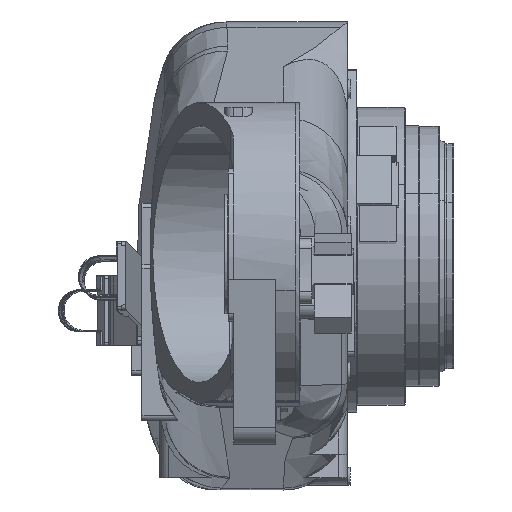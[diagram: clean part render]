
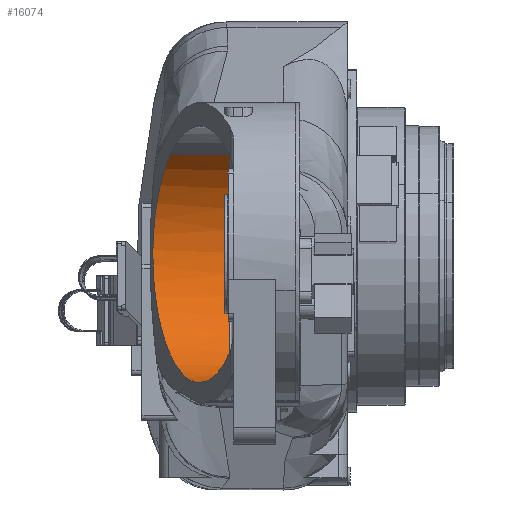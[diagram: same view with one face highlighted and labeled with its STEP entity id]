
A CAD part, top view. The second image highlights one B-rep face of the part: STEP entity #16074.
In plain terms, the highlighted cylindrical face has radius 140 mm (diameter 280 mm), a partial arc.
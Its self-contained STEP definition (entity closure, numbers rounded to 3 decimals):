
#12267=CARTESIAN_POINT('Vertex',(-197.,196.328,1918.263)) ;
#12271=CARTESIAN_POINT('Control Point',(-229.125,165.,1830.)) ;
#12272=CARTESIAN_POINT('Control Point',(-224.099,165.,1843.81)) ;
#12273=CARTESIAN_POINT('Control Point',(-219.072,166.703,1857.619)) ;
#12274=CARTESIAN_POINT('Control Point',(-214.135,170.108,1871.185)) ;
#12275=CARTESIAN_POINT('Control Point',(-207.612,177.068,1889.107)) ;
#12276=CARTESIAN_POINT('Control Point',(-201.605,187.,1905.609)) ;
#12277=CARTESIAN_POINT('Control Point',(-200.021,189.903,1909.962)) ;
#12278=CARTESIAN_POINT('Control Point',(-198.484,193.015,1914.184)) ;
#12279=CARTESIAN_POINT('Control Point',(-197.,196.328,1918.263)) ;
#12280=CARTESIAN_POINT('Vertex',(-229.125,165.,1830.)) ;
#12284=CARTESIAN_POINT('Control Point',(-261.25,413.672,1741.737)) ;
#12285=CARTESIAN_POINT('Control Point',(-262.993,409.782,1736.948)) ;
#12286=CARTESIAN_POINT('Control Point',(-264.664,405.615,1732.357)) ;
#12287=CARTESIAN_POINT('Control Point',(-266.255,401.184,1727.986)) ;
#12288=CARTESIAN_POINT('Control Point',(-270.312,388.545,1716.838)) ;
#12289=CARTESIAN_POINT('Control Point',(-273.677,374.209,1707.593)) ;
#12290=CARTESIAN_POINT('Control Point',(-275.485,364.599,1702.627)) ;
#12291=CARTESIAN_POINT('Control Point',(-278.615,343.063,1694.027)) ;
#12292=CARTESIAN_POINT('Control Point',(-280.088,320.028,1689.979)) ;
#12293=CARTESIAN_POINT('Control Point',(-280.374,307.555,1689.195)) ;
#12294=CARTESIAN_POINT('Control Point',(-279.969,284.82,1690.307)) ;
#12295=CARTESIAN_POINT('Control Point',(-277.934,262.895,1695.897)) ;
#12296=CARTESIAN_POINT('Control Point',(-276.691,253.269,1699.315)) ;
#12297=CARTESIAN_POINT('Control Point',(-273.282,232.944,1708.68)) ;
#12298=CARTESIAN_POINT('Control Point',(-268.53,215.016,1721.735)) ;
#12299=CARTESIAN_POINT('Control Point',(-265.58,206.096,1729.84)) ;
#12300=CARTESIAN_POINT('Control Point',(-258.643,189.14,1748.9)) ;
#12301=CARTESIAN_POINT('Control Point',(-250.597,176.988,1771.005)) ;
#12302=CARTESIAN_POINT('Control Point',(-246.086,171.989,1783.399)) ;
#12303=CARTESIAN_POINT('Control Point',(-239.945,167.398,1800.273)) ;
#12304=CARTESIAN_POINT('Control Point',(-233.675,165.466,1817.499)) ;
#12305=CARTESIAN_POINT('Control Point',(-232.16,165.155,1821.662)) ;
#12306=CARTESIAN_POINT('Control Point',(-230.642,165.,1825.831)) ;
#12307=CARTESIAN_POINT('Control Point',(-229.125,165.,1830.)) ;
#12308=CARTESIAN_POINT('Vertex',(-261.25,413.672,1741.737)) ;
#16041=CARTESIAN_POINT('Vertex',(-197.,413.672,1741.737)) ;
#16044=CARTESIAN_POINT('Axis2P3D Location',(-197.,305.,1830.)) ;
#16058=CARTESIAN_POINT('Axis2P3D Location',(-238.772,305.,1830.)) ;
#16063=CARTESIAN_POINT('Line Origine',(-238.772,413.672,1741.737)) ;
#16045=DIRECTION('Axis2P3D Direction',(1.,0.,0.)) ;
#16059=DIRECTION('Axis2P3D Direction',(1.,0.,-0.)) ;
#16060=DIRECTION('Axis2P3D XDirection',(0.,-0.776,0.63)) ;
#16064=DIRECTION('Vector Direction',(1.,0.,0.)) ;
#16046=AXIS2_PLACEMENT_3D('Circle Axis2P3D',#16044,#16045,$) ;
#16061=AXIS2_PLACEMENT_3D('Cylinder Axis2P3D',#16058,#16059,#16060) ;
#16069=ORIENTED_EDGE('',*,*,#12310,.T.) ;
#16070=ORIENTED_EDGE('',*,*,#12282,.T.) ;
#16071=ORIENTED_EDGE('',*,*,#16048,.F.) ;
#16072=ORIENTED_EDGE('',*,*,#16067,.F.) ;
#16065=VECTOR('Line Direction',#16064,1.) ;
#16074=ADVANCED_FACE('E__A I_____',(#16073),#16062,.F.) ;
#12270=B_SPLINE_CURVE_WITH_KNOTS('',5,(#12271,#12272,#12273,#12274,#12275,#12276,#12277,#12278,#12279),.UNSPECIFIED.,.F.,.U.,(6,3,6),(0.,103.986,142.616),.UNSPECIFIED.) ;
#12283=B_SPLINE_CURVE_WITH_KNOTS('',5,(#12284,#12285,#12286,#12287,#12288,#12289,#12290,#12291,#12292,#12293,#12294,#12295,#12296,#12297,#12298,#12299,#12300,#12301,#12302,#12303,#12304,#12305,#12306,#12307),.UNSPECIFIED.,.F.,.U.,(6,3,3,3,3,3,3,6),(142.646,188.022,265.134,352.779,425.168,512.309,611.286,642.687),.UNSPECIFIED.) ;
#16047=CIRCLE('generated circle',#16046,140.) ;
#16062=CYLINDRICAL_SURFACE('generated cylinder',#16061,140.) ;
#12282=EDGE_CURVE('',#12281,#12268,#12270,.T.) ;
#12310=EDGE_CURVE('',#12309,#12281,#12283,.T.) ;
#16048=EDGE_CURVE('',#16042,#12268,#16047,.F.) ;
#16067=EDGE_CURVE('',#12309,#16042,#16066,.T.) ;
#16068=EDGE_LOOP('',(#16069,#16070,#16071,#16072)) ;
#16073=FACE_OUTER_BOUND('',#16068,.T.) ;
#16066=LINE('Line',#16063,#16065) ;
#12268=VERTEX_POINT('',#12267) ;
#12281=VERTEX_POINT('',#12280) ;
#12309=VERTEX_POINT('',#12308) ;
#16042=VERTEX_POINT('',#16041) ;
